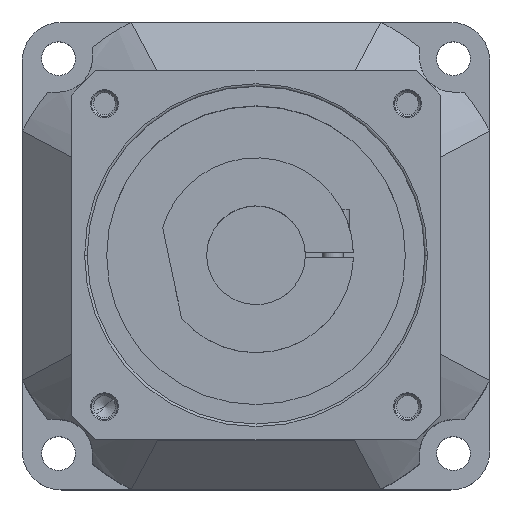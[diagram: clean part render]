
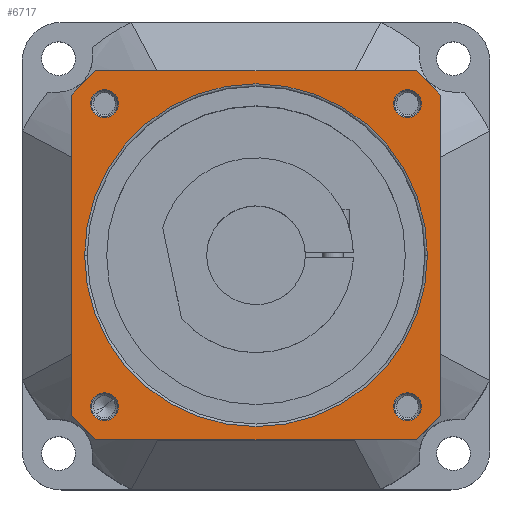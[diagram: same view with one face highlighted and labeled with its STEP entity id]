
A CAD part, top view. The second image highlights one B-rep face of the part: STEP entity #6717.
In plain terms, the highlighted planar face has unit normal (0, 0, 1) as drawn and (0, 1, 0) by its records, which use the part's own axes.
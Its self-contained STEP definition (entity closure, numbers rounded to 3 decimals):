
#5603=CARTESIAN_POINT('',(0.,71.,0.));
#5604=DIRECTION('',(0.,1.,0.));
#5605=DIRECTION('',(0.755,0.,-0.655));
#5606=AXIS2_PLACEMENT_3D('',#5603,#5604,#5605);
#5608=DIRECTION('',(0.,0.,-1.));
#5609=VECTOR('',#5608,123.207);
#5610=CARTESIAN_POINT('',(71.,71.,61.604));
#5611=LINE('',#5610,#5609);
#5612=CARTESIAN_POINT('',(0.,71.,0.));
#5613=DIRECTION('',(0.,1.,0.));
#5614=DIRECTION('',(0.655,0.,0.755));
#5615=AXIS2_PLACEMENT_3D('',#5612,#5613,#5614);
#5617=DIRECTION('',(1.,0.,0.));
#5618=VECTOR('',#5617,123.207);
#5619=CARTESIAN_POINT('',(-61.604,71.,71.));
#5620=LINE('',#5619,#5618);
#5621=CARTESIAN_POINT('',(0.,71.,0.));
#5622=DIRECTION('',(0.,1.,0.));
#5623=DIRECTION('',(-0.755,0.,0.655));
#5624=AXIS2_PLACEMENT_3D('',#5621,#5622,#5623);
#5626=DIRECTION('',(0.,0.,1.));
#5627=VECTOR('',#5626,123.207);
#5628=CARTESIAN_POINT('',(-71.,71.,-61.604));
#5629=LINE('',#5628,#5627);
#5630=CARTESIAN_POINT('',(0.,71.,0.));
#5631=DIRECTION('',(0.,1.,0.));
#5632=DIRECTION('',(-0.655,0.,-0.755));
#5633=AXIS2_PLACEMENT_3D('',#5630,#5631,#5632);
#5635=DIRECTION('',(-1.,0.,0.));
#5636=VECTOR('',#5635,123.207);
#5637=CARTESIAN_POINT('',(61.604,71.,-71.));
#5638=LINE('',#5637,#5636);
#5639=CARTESIAN_POINT('',(-58.336,71.,58.336));
#5640=DIRECTION('',(0.,-1.,0.));
#5641=DIRECTION('',(1.,0.,0.));
#5642=AXIS2_PLACEMENT_3D('',#5639,#5640,#5641);
#5649=CARTESIAN_POINT('',(-58.336,71.,58.336));
#5650=DIRECTION('',(0.,-1.,0.));
#5651=DIRECTION('',(-1.,0.,0.));
#5652=AXIS2_PLACEMENT_3D('',#5649,#5650,#5651);
#5685=CARTESIAN_POINT('',(-58.336,71.,-58.336));
#5686=DIRECTION('',(0.,-1.,0.));
#5687=DIRECTION('',(1.,0.,0.));
#5688=AXIS2_PLACEMENT_3D('',#5685,#5686,#5687);
#5695=CARTESIAN_POINT('',(-58.336,71.,-58.336));
#5696=DIRECTION('',(0.,-1.,0.));
#5697=DIRECTION('',(-1.,0.,0.));
#5698=AXIS2_PLACEMENT_3D('',#5695,#5696,#5697);
#5731=CARTESIAN_POINT('',(58.336,71.,-58.336));
#5732=DIRECTION('',(0.,-1.,0.));
#5733=DIRECTION('',(1.,0.,0.));
#5734=AXIS2_PLACEMENT_3D('',#5731,#5732,#5733);
#5741=CARTESIAN_POINT('',(58.336,71.,-58.336));
#5742=DIRECTION('',(0.,-1.,0.));
#5743=DIRECTION('',(-1.,0.,0.));
#5744=AXIS2_PLACEMENT_3D('',#5741,#5742,#5743);
#6099=CARTESIAN_POINT('',(58.336,71.,58.336));
#6100=DIRECTION('',(0.,-1.,0.));
#6101=DIRECTION('',(1.,0.,0.));
#6102=AXIS2_PLACEMENT_3D('',#6099,#6100,#6101);
#6109=CARTESIAN_POINT('',(58.336,71.,58.336));
#6110=DIRECTION('',(0.,-1.,0.));
#6111=DIRECTION('',(-1.,0.,0.));
#6112=AXIS2_PLACEMENT_3D('',#6109,#6110,#6111);
#6163=CARTESIAN_POINT('',(0.,71.,0.));
#6164=DIRECTION('',(0.,-1.,0.));
#6165=DIRECTION('',(0.,0.,1.));
#6166=AXIS2_PLACEMENT_3D('',#6163,#6164,#6165);
#6178=CARTESIAN_POINT('',(0.,71.,0.));
#6179=DIRECTION('',(0.,-1.,0.));
#6180=DIRECTION('',(0.,0.,-1.));
#6181=AXIS2_PLACEMENT_3D('',#6178,#6179,#6180);
#6333=CARTESIAN_POINT('',(71.,71.,-61.604));
#6334=CARTESIAN_POINT('',(61.604,71.,-71.));
#6335=VERTEX_POINT('',#6333);
#6336=VERTEX_POINT('',#6334);
#6337=CARTESIAN_POINT('',(-61.604,71.,-71.));
#6338=CARTESIAN_POINT('',(-71.,71.,-61.604));
#6339=VERTEX_POINT('',#6337);
#6340=VERTEX_POINT('',#6338);
#6341=CARTESIAN_POINT('',(-71.,71.,61.604));
#6342=CARTESIAN_POINT('',(-61.604,71.,71.));
#6343=VERTEX_POINT('',#6341);
#6344=VERTEX_POINT('',#6342);
#6345=CARTESIAN_POINT('',(61.604,71.,71.));
#6346=CARTESIAN_POINT('',(71.,71.,61.604));
#6347=VERTEX_POINT('',#6345);
#6348=VERTEX_POINT('',#6346);
#6391=CARTESIAN_POINT('',(63.686,71.,58.336));
#6392=CARTESIAN_POINT('',(52.986,71.,58.336));
#6393=VERTEX_POINT('',#6391);
#6394=VERTEX_POINT('',#6392);
#6399=CARTESIAN_POINT('',(-52.986,71.,58.336));
#6400=CARTESIAN_POINT('',(-63.686,71.,58.336));
#6401=VERTEX_POINT('',#6399);
#6402=VERTEX_POINT('',#6400);
#6407=CARTESIAN_POINT('',(-52.986,71.,-58.336));
#6408=CARTESIAN_POINT('',(-63.686,71.,-58.336));
#6409=VERTEX_POINT('',#6407);
#6410=VERTEX_POINT('',#6408);
#6415=CARTESIAN_POINT('',(63.686,71.,-58.336));
#6416=CARTESIAN_POINT('',(52.986,71.,-58.336));
#6417=VERTEX_POINT('',#6415);
#6418=VERTEX_POINT('',#6416);
#6455=CARTESIAN_POINT('',(0.,71.,66.));
#6456=CARTESIAN_POINT('',(0.,71.,-66.));
#6457=VERTEX_POINT('',#6455);
#6458=VERTEX_POINT('',#6456);
#6667=CARTESIAN_POINT('',(0.,71.,0.));
#6668=DIRECTION('',(0.,-1.,0.));
#6669=DIRECTION('',(-1.,0.,0.));
#6670=AXIS2_PLACEMENT_3D('',#6667,#6668,#6669);
#6671=PLANE('',#6670);
#6672=ORIENTED_EDGE('',*,*,#6629,.F.);
#6674=ORIENTED_EDGE('',*,*,#6673,.F.);
#6676=ORIENTED_EDGE('',*,*,#6675,.F.);
#6678=ORIENTED_EDGE('',*,*,#6677,.F.);
#6680=ORIENTED_EDGE('',*,*,#6679,.F.);
#6682=ORIENTED_EDGE('',*,*,#6681,.F.);
#6683=ORIENTED_EDGE('',*,*,#6644,.F.);
#6684=ORIENTED_EDGE('',*,*,#6654,.F.);
#6685=EDGE_LOOP('',(#6672,#6674,#6676,#6678,#6680,#6682,#6683,#6684));
#6686=FACE_OUTER_BOUND('',#6685,.F.);
#6688=ORIENTED_EDGE('',*,*,#6687,.F.);
#6690=ORIENTED_EDGE('',*,*,#6689,.F.);
#6691=EDGE_LOOP('',(#6688,#6690));
#6692=FACE_BOUND('',#6691,.F.);
#6694=ORIENTED_EDGE('',*,*,#6693,.F.);
#6696=ORIENTED_EDGE('',*,*,#6695,.F.);
#6697=EDGE_LOOP('',(#6694,#6696));
#6698=FACE_BOUND('',#6697,.F.);
#6700=ORIENTED_EDGE('',*,*,#6699,.F.);
#6702=ORIENTED_EDGE('',*,*,#6701,.F.);
#6703=EDGE_LOOP('',(#6700,#6702));
#6704=FACE_BOUND('',#6703,.F.);
#6706=ORIENTED_EDGE('',*,*,#6705,.F.);
#6708=ORIENTED_EDGE('',*,*,#6707,.F.);
#6709=EDGE_LOOP('',(#6706,#6708));
#6710=FACE_BOUND('',#6709,.F.);
#6712=ORIENTED_EDGE('',*,*,#6711,.F.);
#6714=ORIENTED_EDGE('',*,*,#6713,.F.);
#6715=EDGE_LOOP('',(#6712,#6714));
#6716=FACE_BOUND('',#6715,.F.);
#6717=ADVANCED_FACE('',(#6686,#6692,#6698,#6704,#6710,#6716),#6671,.F.);
#5607=CIRCLE('',#5606,94.);
#5616=CIRCLE('',#5615,94.);
#5625=CIRCLE('',#5624,94.);
#5634=CIRCLE('',#5633,94.);
#5643=CIRCLE('',#5642,5.35);
#5653=CIRCLE('',#5652,5.35);
#5689=CIRCLE('',#5688,5.35);
#5699=CIRCLE('',#5698,5.35);
#5735=CIRCLE('',#5734,5.35);
#5745=CIRCLE('',#5744,5.35);
#6103=CIRCLE('',#6102,5.35);
#6113=CIRCLE('',#6112,5.35);
#6167=CIRCLE('',#6166,66.);
#6182=CIRCLE('',#6181,66.);
#6629=EDGE_CURVE('',#6335,#6336,#5607,.T.);
#6644=EDGE_CURVE('',#6339,#6340,#5634,.T.);
#6654=EDGE_CURVE('',#6336,#6339,#5638,.T.);
#6673=EDGE_CURVE('',#6348,#6335,#5611,.T.);
#6675=EDGE_CURVE('',#6347,#6348,#5616,.T.);
#6677=EDGE_CURVE('',#6344,#6347,#5620,.T.);
#6679=EDGE_CURVE('',#6343,#6344,#5625,.T.);
#6681=EDGE_CURVE('',#6340,#6343,#5629,.T.);
#6687=EDGE_CURVE('',#6401,#6402,#5643,.T.);
#6689=EDGE_CURVE('',#6402,#6401,#5653,.T.);
#6693=EDGE_CURVE('',#6409,#6410,#5689,.T.);
#6695=EDGE_CURVE('',#6410,#6409,#5699,.T.);
#6699=EDGE_CURVE('',#6417,#6418,#5735,.T.);
#6701=EDGE_CURVE('',#6418,#6417,#5745,.T.);
#6705=EDGE_CURVE('',#6393,#6394,#6103,.T.);
#6707=EDGE_CURVE('',#6394,#6393,#6113,.T.);
#6711=EDGE_CURVE('',#6457,#6458,#6167,.T.);
#6713=EDGE_CURVE('',#6458,#6457,#6182,.T.);
